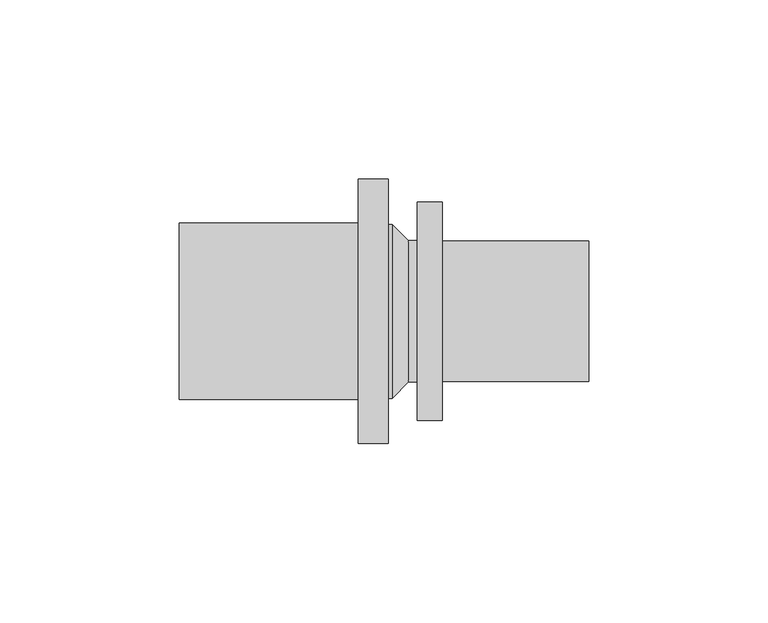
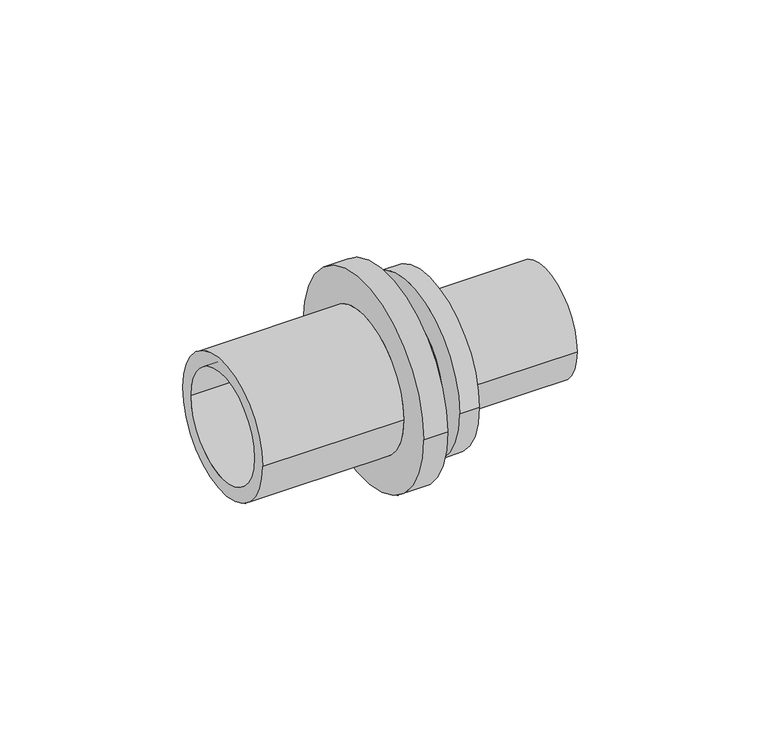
"""IFC4 building model written with IfcOpenShell, lengths in millimetres: pipe fitting geometry, RAUTITAN_Transition_LX : RTI LX Tr DE."""

from ifc_helpers import new_model, si_unit, frame, origin, place, context, project, spatial, polyline, circle_curve, source, transform, mapped, element, save
from ifc_brep_helpers import plane_surface, cylinder_surface, revolved_surface, advanced_brep


def pipe_fitting_1b92578f(model_context):
    return source(origin(), model_context, "Body", "AdvancedBrep", [
        advanced_brep(
        [(-61.75, 19.5, 0.0), (-61.75, -19.5, 0.0), (-2.25, -19.5, 0.0), (-2.25, 19.5, 0.0), (-2.25, 24.3, 0.0), (-2.25, -24.3, 0.0), (-3.25, -24.3, 0.0), (-3.25, 24.3, 0.0), (2.25, 19.8, 0.0), (2.25, -19.8, 0.0), (4.75, 19.8, 0.0), (4.75, -19.8, 0.0), (11.75, 30.5, 0.0), (11.75, -30.5, 0.0), (4.75, -30.5, 0.0), (4.75, 30.5, 0.0), (52.75, 19.6, 0.0), (52.75, -19.6, 0.0), (11.75, -19.6, 0.0), (11.75, 19.6, 0.0), (2.25, 15.0, 0.0), (2.25, -15.0, 0.0), (52.75, -15.0, 0.0), (52.75, 15.0, 0.0), (-3.25, 37.0, 0.0), (-3.25, -37.0, 0.0), (-11.75, 24.6, 0.0), (-11.75, -24.6, 0.0), (-61.75, -24.6, 0.0), (-61.75, 24.6, 0.0), (-11.75, -37.0, 0.0), (-11.75, 37.0, 0.0)],
        [
            (0, 1, circle_curve(frame((-61.75, 0.0, 0.0), z_axis=(-1.0, 0.0, 0.0), x_axis=(0.0, -1.0, 0.0)), 19.5)),
            (1, 2),
            (2, 3, circle_curve(frame((-2.25, 0.0, 0.0), z_axis=(1.0, 0.0, 0.0), x_axis=(0.0, -1.0, 0.0)), 19.5)),
            (3, 0),
            (4, 5, circle_curve(frame((-2.25, 0.0, 0.0), z_axis=(-1.0, 0.0, 0.0), x_axis=(0.0, -1.0, 0.0)), 24.3)),
            (5, 6),
            (6, 7, circle_curve(frame((-3.25, 0.0, 0.0), z_axis=(1.0, 0.0, 0.0), x_axis=(0.0, -1.0, 0.0)), 24.3)),
            (7, 4),
            (8, 9, circle_curve(frame((2.25, 0.0, 0.0), z_axis=(-1.0, 0.0, 0.0), x_axis=(0.0, -1.0, 0.0)), 19.8)),
            (9, 5),
            (4, 8),
            (10, 11, circle_curve(frame((4.75, 0.0, 0.0), z_axis=(-1.0, 0.0, 0.0), x_axis=(0.0, -1.0, 0.0)), 19.8)),
            (11, 9),
            (8, 10),
            (12, 13, circle_curve(frame((11.75, 0.0, 0.0), z_axis=(-1.0, 0.0, 0.0), x_axis=(0.0, -1.0, 0.0)), 30.5)),
            (13, 14),
            (14, 15, circle_curve(frame((4.75, 0.0, 0.0), z_axis=(1.0, 0.0, 0.0), x_axis=(0.0, -1.0, 0.0)), 30.5)),
            (15, 12),
            (16, 17, circle_curve(frame((52.75, 0.0, 0.0), z_axis=(-1.0, 0.0, 0.0), x_axis=(0.0, -1.0, 0.0)), 19.6)),
            (17, 18),
            (18, 19, circle_curve(frame((11.75, 0.0, 0.0), z_axis=(1.0, 0.0, 0.0), x_axis=(0.0, -1.0, 0.0)), 19.6)),
            (19, 16),
            (20, 21, circle_curve(frame((2.25, 0.0, 0.0), z_axis=(-1.0, 0.0, 0.0), x_axis=(0.0, -1.0, 0.0)), 15.0)),
            (21, 22),
            (22, 23, circle_curve(frame((52.75, 0.0, 0.0), z_axis=(1.0, 0.0, 0.0), x_axis=(0.0, -1.0, 0.0)), 15.0)),
            (23, 20),
            (2, 21),
            (20, 3),
            (1, 0, circle_curve(frame((-61.75, 0.0, 0.0), z_axis=(-1.0, 0.0, 0.0), x_axis=(0.0, 1.0, 0.0)), 19.5)),
            (3, 2, circle_curve(frame((-2.25, 0.0, 0.0), z_axis=(1.0, 0.0, 0.0), x_axis=(0.0, 1.0, 0.0)), 19.5)),
            (24, 25, circle_curve(frame((-3.25, 0.0, 0.0), z_axis=(1.0, 0.0, 0.0), x_axis=(0.0, 1.0, 0.0)), 37.0)),
            (25, 24, circle_curve(frame((-3.25, 0.0, 0.0), z_axis=(1.0, 0.0, 0.0), x_axis=(0.0, -1.0, 0.0)), 37.0)),
            (6, 7, circle_curve(frame((-3.25, 0.0, 0.0), z_axis=(-1.0, 0.0, 0.0), x_axis=(0.0, 1.0, 0.0)), 24.3)),
            (5, 4, circle_curve(frame((-2.25, 0.0, 0.0), z_axis=(-1.0, 0.0, 0.0), x_axis=(0.0, 1.0, 0.0)), 24.3)),
            (9, 8, circle_curve(frame((2.25, 0.0, 0.0), z_axis=(-1.0, 0.0, 0.0), x_axis=(0.0, 1.0, 0.0)), 19.8)),
            (11, 10, circle_curve(frame((4.75, 0.0, 0.0), z_axis=(-1.0, 0.0, 0.0), x_axis=(0.0, 1.0, 0.0)), 19.8)),
            (14, 15, circle_curve(frame((4.75, 0.0, 0.0), z_axis=(-1.0, 0.0, 0.0), x_axis=(0.0, 1.0, 0.0)), 30.5)),
            (13, 12, circle_curve(frame((11.75, 0.0, 0.0), z_axis=(-1.0, 0.0, 0.0), x_axis=(0.0, 1.0, 0.0)), 30.5)),
            (18, 19, circle_curve(frame((11.75, 0.0, 0.0), z_axis=(-1.0, 0.0, 0.0), x_axis=(0.0, 1.0, 0.0)), 19.6)),
            (17, 16, circle_curve(frame((52.75, 0.0, 0.0), z_axis=(-1.0, 0.0, 0.0), x_axis=(0.0, 1.0, 0.0)), 19.6)),
            (22, 23, circle_curve(frame((52.75, 0.0, 0.0), z_axis=(-1.0, 0.0, 0.0), x_axis=(0.0, 1.0, 0.0)), 15.0)),
            (21, 20, circle_curve(frame((2.25, 0.0, 0.0), z_axis=(-1.0, 0.0, 0.0), x_axis=(0.0, 1.0, 0.0)), 15.0)),
            (26, 27, circle_curve(frame((-11.75, 0.0, 0.0), z_axis=(-1.0, 0.0, 0.0), x_axis=(0.0, -1.0, 0.0)), 24.6)),
            (27, 28),
            (28, 29, circle_curve(frame((-61.75, 0.0, 0.0), z_axis=(1.0, 0.0, 0.0), x_axis=(0.0, -1.0, 0.0)), 24.6)),
            (29, 26),
            (25, 30),
            (30, 31, circle_curve(frame((-11.75, 0.0, 0.0), z_axis=(1.0, 0.0, 0.0), x_axis=(0.0, -1.0, 0.0)), 37.0)),
            (31, 24),
            (28, 29, circle_curve(frame((-61.75, 0.0, 0.0), z_axis=(-1.0, 0.0, 0.0), x_axis=(0.0, 1.0, 0.0)), 24.6)),
            (27, 26, circle_curve(frame((-11.75, 0.0, 0.0), z_axis=(-1.0, 0.0, 0.0), x_axis=(0.0, 1.0, 0.0)), 24.6)),
            (30, 31, circle_curve(frame((-11.75, 0.0, 0.0), z_axis=(-1.0, 0.0, 0.0), x_axis=(0.0, 1.0, 0.0)), 37.0)),
        ],
        [
            revolved_surface(polyline([(-2.25, -19.5, 0.0), (-61.75, -19.5, 0.0)]), (0.0, 0.0, 0.0), (1.0, 0.0, 0.0)),
            cylinder_surface(frame((0.0, 0.0, 0.0), z_axis=(1.0, 0.0, 0.0), x_axis=(0.0, -1.0, 0.0)), 24.3),
            revolved_surface(polyline([(-2.25, -24.3, 0.0), (2.25, -19.8, 0.0)]), (0.0, 0.0, 0.0), (1.0, 0.0, 0.0)),
            cylinder_surface(frame((0.0, 0.0, 0.0), z_axis=(1.0, 0.0, 0.0), x_axis=(0.0, -1.0, 0.0)), 19.8),
            cylinder_surface(frame((0.0, 0.0, 0.0), z_axis=(1.0, 0.0, 0.0), x_axis=(0.0, -1.0, 0.0)), 30.5),
            cylinder_surface(frame((0.0, 0.0, 0.0), z_axis=(1.0, 0.0, 0.0), x_axis=(0.0, -1.0, 0.0)), 19.6),
            revolved_surface(polyline([(52.75, -15.0, 0.0), (2.25, -15.0, 0.0)]), (0.0, 0.0, 0.0), (1.0, 0.0, 0.0)),
            revolved_surface(polyline([(2.25, -15.0, 0.0), (-2.25, -19.5, 0.0)]), (0.0, 0.0, 0.0), (1.0, 0.0, 0.0)),
            revolved_surface(polyline([(-2.25, 19.5, 0.0), (-61.75, 19.5, 0.0)]), (0.0, 0.0, 0.0), (1.0, 0.0, 0.0)),
            plane_surface(frame((-3.25, 0.0, 0.0), z_axis=(1.0, 0.0, 0.0), x_axis=(0.0, 1.0, 0.0))),
            cylinder_surface(frame((0.0, 0.0, 0.0), z_axis=(1.0, 0.0, 0.0), x_axis=(0.0, 1.0, 0.0)), 24.3),
            revolved_surface(polyline([(-2.25, 24.3, 0.0), (2.25, 19.8, 0.0)]), (0.0, 0.0, 0.0), (1.0, 0.0, 0.0)),
            cylinder_surface(frame((0.0, 0.0, 0.0), z_axis=(1.0, 0.0, 0.0), x_axis=(0.0, 1.0, 0.0)), 19.8),
            plane_surface(frame((4.75, 0.0, 0.0), z_axis=(-1.0, 0.0, 0.0), x_axis=(0.0, 1.0, 0.0))),
            cylinder_surface(frame((0.0, 0.0, 0.0), z_axis=(1.0, 0.0, 0.0), x_axis=(0.0, 1.0, 0.0)), 30.5),
            plane_surface(frame((11.75, 0.0, 0.0), z_axis=(1.0, 0.0, 0.0), x_axis=(0.0, 1.0, 0.0))),
            cylinder_surface(frame((0.0, 0.0, 0.0), z_axis=(1.0, 0.0, 0.0), x_axis=(0.0, 1.0, 0.0)), 19.6),
            plane_surface(frame((52.75, 0.0, 0.0), z_axis=(1.0, 0.0, 0.0), x_axis=(0.0, 1.0, 0.0))),
            revolved_surface(polyline([(52.75, 15.0, 0.0), (2.25, 15.0, 0.0)]), (0.0, 0.0, 0.0), (1.0, 0.0, 0.0)),
            revolved_surface(polyline([(2.25, 15.0, 0.0), (-2.25, 19.5, 0.0)]), (0.0, 0.0, 0.0), (1.0, 0.0, 0.0)),
            cylinder_surface(frame((0.0, 0.0, 0.0), z_axis=(1.0, 0.0, 0.0), x_axis=(0.0, -1.0, 0.0)), 24.6),
            cylinder_surface(frame((0.0, 0.0, 0.0), z_axis=(1.0, 0.0, 0.0), x_axis=(0.0, -1.0, 0.0)), 37.0),
            plane_surface(frame((-61.75, 0.0, 0.0), z_axis=(-1.0, 0.0, 0.0), x_axis=(0.0, 1.0, 0.0))),
            cylinder_surface(frame((0.0, 0.0, 0.0), z_axis=(1.0, 0.0, 0.0), x_axis=(0.0, 1.0, 0.0)), 24.6),
            plane_surface(frame((-11.75, 0.0, 0.0), z_axis=(-1.0, 0.0, 0.0), x_axis=(0.0, 1.0, 0.0))),
            cylinder_surface(frame((0.0, 0.0, 0.0), z_axis=(1.0, 0.0, 0.0), x_axis=(0.0, 1.0, 0.0)), 37.0),
        ],
        [
            (0, [[1, 2, 3, 4]]),
            (1, [[5, 6, 7, 8]]),
            (2, [[9, 10, -5, 11]]),
            (3, [[12, 13, -9, 14]]),
            (4, [[15, 16, 17, 18]]),
            (5, [[19, 20, 21, 22]]),
            (6, [[23, 24, 25, 26]]),
            (7, [[-3, 27, -23, 28]]),
            (8, [[29, -4, 30, -2]]),
            (9, [[31, 32], [33, -7]]),
            (10, [[34, -8, -33, -6]]),
            (11, [[35, -11, -34, -10]]),
            (12, [[36, -14, -35, -13]]),
            (13, [[37, -17], [-36, -12]]),
            (14, [[38, -18, -37, -16]]),
            (15, [[-38, -15], [39, -21]]),
            (16, [[40, -22, -39, -20]]),
            (17, [[-40, -19], [41, -25]]),
            (18, [[42, -26, -41, -24]]),
            (19, [[-30, -28, -42, -27]]),
            (20, [[43, 44, 45, 46]]),
            (21, [[-32, 47, 48, 49]]),
            (22, [[50, -45], [-29, -1]]),
            (23, [[51, -46, -50, -44]]),
            (24, [[52, -48], [-51, -43]]),
            (25, [[-31, -49, -52, -47]]),
        ],
    ),
    ])


if __name__ == "__main__":
    model = new_model("IFC4")
    model_context = context("Model", 3, world=origin())
    ifc_project = project(units=[si_unit("LENGTHUNIT", "METRE", prefix="MILLI")], contexts=[model_context])
    site = spatial("IfcSite", under=ifc_project)
    building = spatial("IfcBuilding", under=site)
    placement = place(None, origin())
    pipe_fitting_shape = pipe_fitting_1b92578f(model_context)
    element("IfcPipeFitting", 1, ObjectType="RAUTITAN_Transition_LX : RTI LX Tr DE", at=placement, inside=building, context=model_context, shape_type="MappedRepresentation", body=[
        mapped(pipe_fitting_shape, transform((0.0, 0.0, 0.0), x_axis=(1.0, 0.0, 0.0), y_axis=(0.0, 1.0, 0.0), z_axis=(0.0, 0.0, 1.0))),
    ])
    save(model, "model.ifc")
